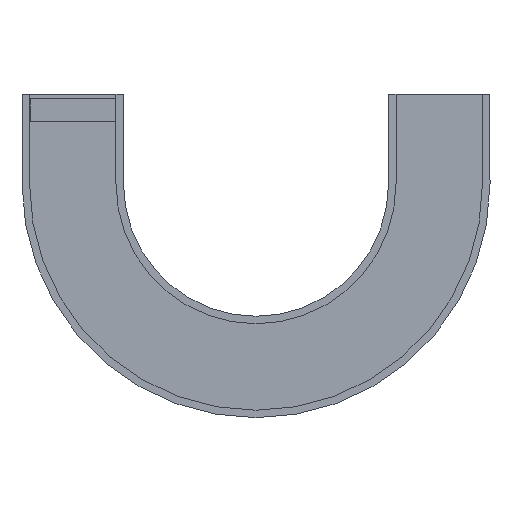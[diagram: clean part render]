
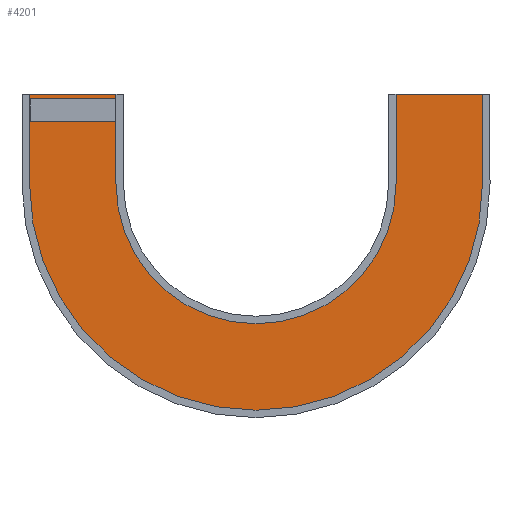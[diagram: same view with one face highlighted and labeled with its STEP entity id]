
A CAD part, front view. The second image highlights one B-rep face of the part: STEP entity #4201.
In plain terms, the highlighted planar face has unit normal (0, -1, 0).
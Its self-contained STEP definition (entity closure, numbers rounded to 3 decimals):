
#150 = DIRECTION ( 'NONE',  ( 0., 0., 1. ) ) ;
#166 = CARTESIAN_POINT ( 'NONE',  ( 931., -57.525, -200. ) ) ;
#223 = DIRECTION ( 'NONE',  ( 0., 0., -1. ) ) ;
#224 = DIRECTION ( 'NONE',  ( 0., -1., 0. ) ) ;
#225 = CARTESIAN_POINT ( 'NONE',  ( 410., -57.525, -200. ) ) ;
#230 = DIRECTION ( 'NONE',  ( 0., 0., -1. ) ) ;
#231 = DIRECTION ( 'NONE',  ( 0., -1., 0. ) ) ;
#232 = CARTESIAN_POINT ( 'NONE',  ( 410., -57.525, -200. ) ) ;
#256 = DIRECTION ( 'NONE',  ( 0., 0., 1. ) ) ;
#271 = CARTESIAN_POINT ( 'NONE',  ( 709., -57.525, -200. ) ) ;
#1084 = DIRECTION ( 'NONE',  ( 0., 0., -1. ) ) ;
#1085 = DIRECTION ( 'NONE',  ( 0., -1., 0. ) ) ;
#1086 = CARTESIAN_POINT ( 'NONE',  ( 410., -57.525, -200. ) ) ;
#1096 = DIRECTION ( 'NONE',  ( 0., 0., -1. ) ) ;
#1097 = DIRECTION ( 'NONE',  ( 0., -1., 0. ) ) ;
#1099 = CARTESIAN_POINT ( 'NONE',  ( 410., -57.525, -200. ) ) ;
#2655 = ORIENTED_EDGE ( 'NONE', *, *, #7553, .F. ) ;
#2656 = ORIENTED_EDGE ( 'NONE', *, *, #7511, .F. ) ;
#2657 = ORIENTED_EDGE ( 'NONE', *, *, #4751, .T. ) ;
#2658 = ORIENTED_EDGE ( 'NONE', *, *, #4524, .T. ) ;
#2659 = ORIENTED_EDGE ( 'NONE', *, *, #4616, .T. ) ;
#2660 = ORIENTED_EDGE ( 'NONE', *, *, #7536, .T. ) ;
#2661 = ORIENTED_EDGE ( 'NONE', *, *, #4611, .F. ) ;
#2662 = ORIENTED_EDGE ( 'NONE', *, *, #4749, .F. ) ;
#2663 = ORIENTED_EDGE ( 'NONE', *, *, #4528, .F. ) ;
#2664 = ORIENTED_EDGE ( 'NONE', *, *, #7535, .T. ) ;
#2777 = EDGE_LOOP ( 'NONE', ( #2655, #2656, #2657, #2658, #2659, #2660, #2661, #2662, #2663, #2664 ) ) ;
#3194 = DIRECTION ( 'NONE',  ( 1., 0., 0. ) ) ;
#3195 = CARTESIAN_POINT ( 'NONE',  ( 111., -57.525, 0. ) ) ;
#3245 = DIRECTION ( 'NONE',  ( -1., 0., 0. ) ) ;
#3249 = CARTESIAN_POINT ( 'NONE',  ( 709., -57.525, 0. ) ) ;
#3251 = DIRECTION ( 'NONE',  ( 0., 0., 1. ) ) ;
#3252 = CARTESIAN_POINT ( 'NONE',  ( 111., -57.525, -200. ) ) ;
#3323 = DIRECTION ( 'NONE',  ( 0., 0., 1. ) ) ;
#3324 = CARTESIAN_POINT ( 'NONE',  ( -111., -57.525, -200. ) ) ;
#3813 = VERTEX_POINT ( 'NONE', #6815 ) ;
#3918 = VERTEX_POINT ( 'NONE', #6670 ) ;
#3925 = VERTEX_POINT ( 'NONE', #6662 ) ;
#3975 = VERTEX_POINT ( 'NONE', #6565 ) ;
#4071 = VERTEX_POINT ( 'NONE', #6266 ) ;
#4090 = VERTEX_POINT ( 'NONE', #6210 ) ;
#4099 = VERTEX_POINT ( 'NONE', #6186 ) ;
#4106 = VERTEX_POINT ( 'NONE', #6166 ) ;
#4150 = VERTEX_POINT ( 'NONE', #6597 ) ;
#4157 = VERTEX_POINT ( 'NONE', #6586 ) ;
#4201 = ADVANCED_FACE ( 'NONE', ( #7710 ), #6507, .T. ) ;
#4524 = EDGE_CURVE ( 'NONE', #3813, #4099, #5561, .T. ) ;
#4528 = EDGE_CURVE ( 'NONE', #4106, #3925, #5555, .T. ) ;
#4611 = EDGE_CURVE ( 'NONE', #3918, #4071, #5411, .T. ) ;
#4616 = EDGE_CURVE ( 'NONE', #4099, #4157, #5401, .T. ) ;
#4749 = EDGE_CURVE ( 'NONE', #3925, #3918, #5155, .T. ) ;
#4751 = EDGE_CURVE ( 'NONE', #4150, #3813, #5152, .T. ) ;
#4958 = VECTOR ( 'NONE', #3194, 1000. ) ;
#4959 = LINE ( 'NONE', #3195, #4958 ) ;
#4992 = VECTOR ( 'NONE', #3245, 1000. ) ;
#4993 = LINE ( 'NONE', #3249, #4992 ) ;
#4994 = VECTOR ( 'NONE', #3251, 1000. ) ;
#4995 = LINE ( 'NONE', #3252, #4994 ) ;
#5042 = VECTOR ( 'NONE', #3323, 1000. ) ;
#5043 = LINE ( 'NONE', #3324, #5042 ) ;
#5152 = CIRCLE ( 'NONE', #7036, 521. ) ;
#5155 = CIRCLE ( 'NONE', #7038, 299. ) ;
#5400 = VECTOR ( 'NONE', #150, 1000. ) ;
#5401 = LINE ( 'NONE', #166, #5400 ) ;
#5410 = VECTOR ( 'NONE', #256, 1000. ) ;
#5411 = LINE ( 'NONE', #271, #5410 ) ;
#5555 = CIRCLE ( 'NONE', #7080, 299. ) ;
#5561 = CIRCLE ( 'NONE', #7082, 521. ) ;
#6166 = CARTESIAN_POINT ( 'NONE',  ( 111., -57.525, -200. ) ) ;
#6186 = CARTESIAN_POINT ( 'NONE',  ( 931., -57.525, -200. ) ) ;
#6210 = CARTESIAN_POINT ( 'NONE',  ( -111., -57.525, 0. ) ) ;
#6266 = CARTESIAN_POINT ( 'NONE',  ( 709., -57.525, 0. ) ) ;
#6503 = DIRECTION ( 'NONE',  ( 1., 0., 0. ) ) ;
#6505 = DIRECTION ( 'NONE',  ( 0., -1., 0. ) ) ;
#6506 = CARTESIAN_POINT ( 'NONE',  ( 111., -57.525, -200. ) ) ;
#6507 = PLANE ( 'NONE',  #7234 ) ;
#6565 = CARTESIAN_POINT ( 'NONE',  ( 111., -57.525, 0. ) ) ;
#6586 = CARTESIAN_POINT ( 'NONE',  ( 931., -57.525, 0. ) ) ;
#6597 = CARTESIAN_POINT ( 'NONE',  ( -111., -57.525, -200. ) ) ;
#6662 = CARTESIAN_POINT ( 'NONE',  ( 410., -57.525, -499. ) ) ;
#6670 = CARTESIAN_POINT ( 'NONE',  ( 709., -57.525, -200. ) ) ;
#6815 = CARTESIAN_POINT ( 'NONE',  ( 410., -57.525, -721. ) ) ;
#7036 = AXIS2_PLACEMENT_3D ( 'NONE', #225, #224, #223 ) ;
#7038 = AXIS2_PLACEMENT_3D ( 'NONE', #232, #231, #230 ) ;
#7080 = AXIS2_PLACEMENT_3D ( 'NONE', #1086, #1085, #1084 ) ;
#7082 = AXIS2_PLACEMENT_3D ( 'NONE', #1099, #1097, #1096 ) ;
#7234 = AXIS2_PLACEMENT_3D ( 'NONE', #6506, #6505, #6503 ) ;
#7511 = EDGE_CURVE ( 'NONE', #4150, #4090, #5043, .T. ) ;
#7535 = EDGE_CURVE ( 'NONE', #4106, #3975, #4995, .T. ) ;
#7536 = EDGE_CURVE ( 'NONE', #4157, #4071, #4993, .T. ) ;
#7553 = EDGE_CURVE ( 'NONE', #4090, #3975, #4959, .T. ) ;
#7710 = FACE_OUTER_BOUND ( 'NONE', #2777, .T. ) ;
